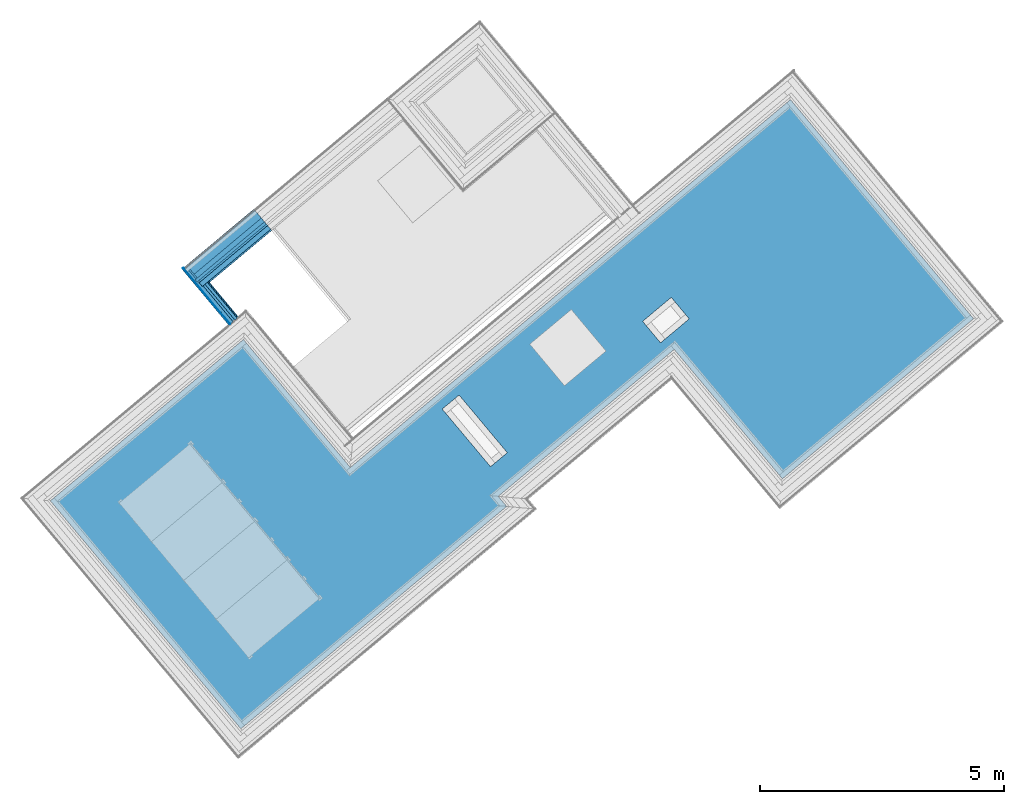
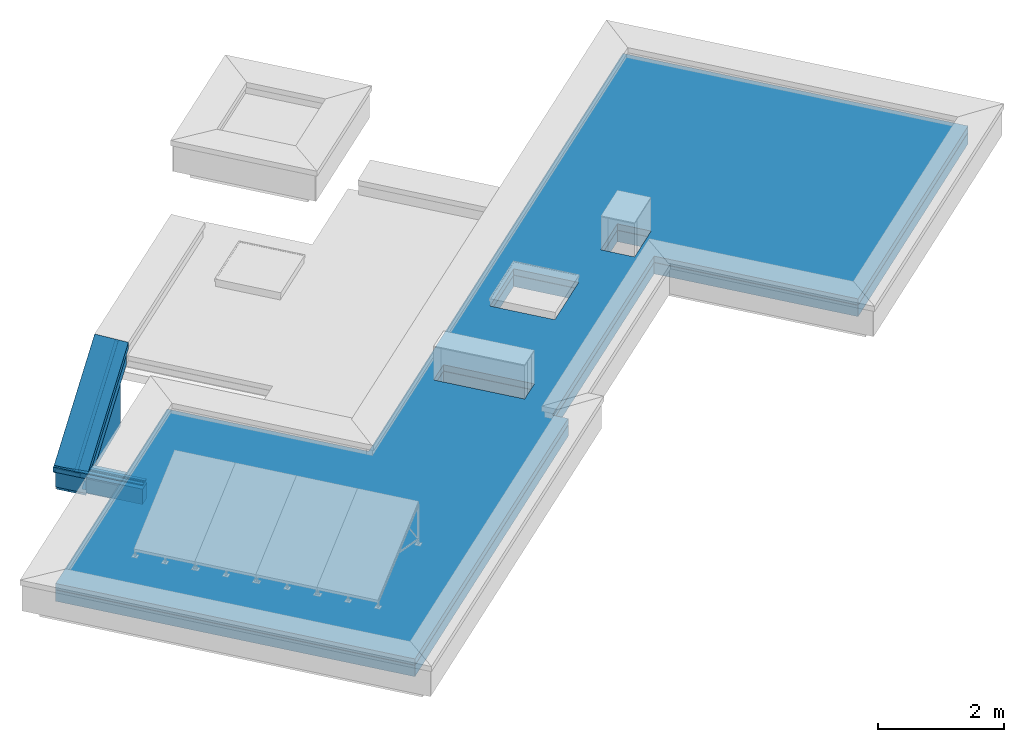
# One storey, part 5 of 15: 14 building element parts, 1 opening, 3 elements without a shape of their own.
"""IFC4 building model written with IfcOpenShell, lengths in metres."""

from ifc_helpers import new_model, entity, si_unit, converted_unit, derived_unit, direction, frame, origin_with_axes, place, context, subcontext, project, spatial, polygons, material, type_object, element, aggregate, save


model = new_model("IFC4")

# Units and contexts
model_context = context("Model", 3, precision=1e-05, world=origin_with_axes(), true_north=direction((0.0, 1.0)))
body_context = subcontext(model_context, "Body", "Model", "MODEL_VIEW")
ifc_project = project(units=[si_unit("LENGTHUNIT", "METRE"), si_unit("AREAUNIT", "SQUARE_METRE"), si_unit("VOLUMEUNIT", "CUBIC_METRE"), converted_unit("PLANEANGLEUNIT", "DEGREE", entity("IfcPlaneAngleMeasure", 0.0174532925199), si_unit("PLANEANGLEUNIT", "RADIAN"), dimensions=[0, 0, 0, 0, 0, 0, 0]), converted_unit("TIMEUNIT", "Year", entity("IfcTimeMeasure", 31556926.0), si_unit("TIMEUNIT", "SECOND"), dimensions=[0, 0, 1, 0, 0, 0, 0]), si_unit("MASSUNIT", "GRAM", prefix="KILO"), si_unit("THERMODYNAMICTEMPERATUREUNIT", "DEGREE_CELSIUS"), si_unit("LUMINOUSINTENSITYUNIT", "LUMEN"), si_unit("ENERGYUNIT", "JOULE", prefix="MEGA"), derived_unit("THERMALCONDUCTANCEUNIT", [(si_unit("POWERUNIT", "WATT"), 1), (si_unit("LENGTHUNIT", "METRE"), -1), (si_unit("THERMODYNAMICTEMPERATUREUNIT", "KELVIN"), -1)]), derived_unit("SPECIFICHEATCAPACITYUNIT", [(si_unit("ENERGYUNIT", "JOULE"), 1), (si_unit("MASSUNIT", "GRAM", prefix="KILO"), -1), (si_unit("THERMODYNAMICTEMPERATUREUNIT", "KELVIN"), -1)]), derived_unit("MASSDENSITYUNIT", [(si_unit("MASSUNIT", "GRAM", prefix="KILO"), 1), (si_unit("VOLUMEUNIT", "CUBIC_METRE"), -1)])], contexts=[model_context])

# Site, building, storey
site_placement = place(None, frame((-0.00153261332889, -0.00661245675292, 0.0), z_axis=(0.0, 0.0, 1.0), x_axis=(1.0, 0.0, 0.0)))
site = spatial("IfcSite", under=ifc_project, at=site_placement, Name="Site", CompositionType="ELEMENT")
building_placement = place(site_placement, origin_with_axes())
building = spatial("IfcBuilding", under=site, at=building_placement, Name="Building", CompositionType="ELEMENT")
storey_placement = place(building_placement, frame((0.0, 0.0, 11.84), z_axis=(0.0, 0.0, 1.0), x_axis=(1.0, 0.0, 0.0)))
storey = spatial("IfcBuildingStorey", under=building, at=storey_placement, Name="DA", CompositionType="ELEMENT", Elevation=11.84)

# Roof, opening, building element parts
roof_type = type_object("IfcRoofType", Name="Flachdach Kies Dachaufbau 360", PredefinedType="NOTDEFINED")
roof_placement = place(storey_placement, frame((-7.153028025, 17.8344643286, 0.0), z_axis=(0.0, 0.0, 1.0), x_axis=(0.76736582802, 0.641209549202, 0.0)))
roof = element("IfcRoof", 1, at=roof_placement, inside=storey, type_object=roof_type, Name="Dach-002", PredefinedType="NOTDEFINED")
opening_placement = place(roof_placement, frame((10.1581112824, -3.84416247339, 0.36), z_axis=(0.0, 0.0, 1.0), x_axis=(1.0, 0.0, 0.0)))
element("IfcOpeningElement", 2, at=opening_placement, cuts=roof, Name="DFenst-002", context=body_context, identifier="Reference", shape_type="Tessellation", body=[
    polygons([(-0.549139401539, -1.0998264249, 0.0), (0.549034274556, -1.09987890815, 0.0), (0.549034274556, -1.09987890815, 0.000999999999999), (-0.549139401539, -1.0998264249, 0.000999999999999), (-0.549139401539, -1.0998264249, -0.361), (0.549034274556, -1.09987890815, -0.361), (0.549086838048, -2.62416250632e-05, 0.0), (0.549086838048, -2.62416250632e-05, 0.000999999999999), (-0.549086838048, 2.62416250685e-05, 0.000999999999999), (-0.549086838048, 2.62416250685e-05, 0.0), (-0.549086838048, 2.62416250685e-05, -0.361), (0.549086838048, -2.62416250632e-05, -0.361)], [[[1, 2, 3, 4]], [[2, 1, 5, 6]], [[2, 7, 8, 3]], [[3, 8, 9, 4]], [[10, 1, 4, 9]], [[1, 10, 11, 5]], [[5, 11, 12, 6]], [[7, 2, 6, 12]], [[7, 10, 9, 8]], [[10, 7, 12, 11]]], closed=True),
])
ifc_material_1 = material(Name="Kies")
building_element_part_1_placement = place(roof_placement, origin_with_axes())
building_element_part_1 = element("IfcBuildingElementPart", 3, at=building_element_part_1_placement, material=ifc_material_1, Name="Kies", PredefinedType="NOTDEFINED", context=body_context, shape_type="Tessellation", body=[
    polygons([(7.1069283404, -5.81885664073, 0.24), (7.10697326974, -6.08743675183, 0.24), (-1.72136707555e-07, -6.09206489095, 0.24), (0.0, 0.0, 0.24), (5.16009951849, 0.0, 0.24), (5.16009951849, -3.41791933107, 0.24), (16.9223077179, -3.41791976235, 0.24), (16.9223296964, -9.27248425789, 0.24), (11.8084432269, -9.2788160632, 0.24), (11.8066322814, -5.82152738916, 0.24), (7.37613453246, -5.24986721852, 0.24), (7.8222728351, -5.24986723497, 0.24), (7.82227289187, -3.71028700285, 0.24), (7.37343532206, -3.70871416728, 0.24), (11.6804973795, -5.53633381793, 0.24), (12.4437771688, -5.5363338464, 0.24), (12.4449024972, -4.96363244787, 0.24), (11.6804974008, -4.96363241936, 0.24), (9.60902444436, -3.84413623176, 0.24), (9.60897188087, -4.94398889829, 0.24), (10.707145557, -4.94404138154, 0.24), (10.7071981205, -3.84418871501, 0.24), (7.1069283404, -5.81885664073, 0.36), (7.10697326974, -6.08743675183, 0.36), (-1.72136707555e-07, -6.09206489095, 0.36), (0.0, 0.0, 0.36), (5.16009951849, 0.0, 0.36), (5.16009951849, -3.41791933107, 0.36), (16.9223077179, -3.41791976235, 0.36), (16.9223296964, -9.27248425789, 0.36), (11.8084432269, -9.2788160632, 0.36), (11.8066322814, -5.82152738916, 0.36), (7.37613453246, -5.24986721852, 0.36), (7.8222728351, -5.24986723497, 0.36), (7.82227289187, -3.71028700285, 0.36), (7.37343532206, -3.70871416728, 0.36), (11.6804973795, -5.53633381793, 0.36), (12.4437771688, -5.5363338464, 0.36), (12.4449024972, -4.96363244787, 0.36), (11.6804974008, -4.96363241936, 0.36), (9.60902444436, -3.84413623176, 0.36), (9.60897188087, -4.94398889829, 0.36), (10.707145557, -4.94404138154, 0.36), (10.7071981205, -3.84418871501, 0.36)], [[[1, 2, 3, 4, 5, 6, 7, 8, 9, 10], [11, 12, 13, 14], [15, 16, 17, 18], [19, 20, 21, 22]], [[23, 24, 2, 1]], [[24, 25, 3, 2]], [[25, 26, 4, 3]], [[26, 27, 5, 4]], [[27, 28, 6, 5]], [[28, 29, 7, 6]], [[29, 30, 8, 7]], [[30, 31, 9, 8]], [[31, 32, 10, 9]], [[32, 23, 1, 10]], [[33, 34, 12, 11]], [[34, 35, 13, 12]], [[35, 36, 14, 13]], [[36, 33, 11, 14]], [[37, 38, 16, 15]], [[38, 39, 17, 16]], [[39, 40, 18, 17]], [[40, 37, 15, 18]], [[41, 42, 20, 19]], [[42, 43, 21, 20]], [[43, 44, 22, 21]], [[44, 41, 19, 22]], [[29, 28, 27, 26, 25, 24, 23, 32, 31, 30], [35, 34, 33, 36], [39, 38, 37, 40], [41, 44, 43, 42]]], closed=True),
])
ifc_material_2 = material(Name="XPS")
building_element_part_2_placement = place(roof_placement, origin_with_axes())
building_element_part_2 = element("IfcBuildingElementPart", 4, at=building_element_part_2_placement, material=ifc_material_2, Name="XPS", PredefinedType="NOTDEFINED", context=body_context, shape_type="Tessellation", body=[
    polygons([(7.1069283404, -5.81885664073, 0.015), (7.10697326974, -6.08743675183, 0.015), (-1.72136707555e-07, -6.09206489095, 0.015), (0.0, 0.0, 0.015), (5.16009951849, 0.0, 0.015), (5.16009951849, -3.41791933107, 0.015), (16.9223077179, -3.41791976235, 0.015), (16.9223296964, -9.27248425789, 0.015), (11.8084432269, -9.2788160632, 0.015), (11.8066322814, -5.82152738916, 0.015), (7.37613453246, -5.24986721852, 0.015), (7.8222728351, -5.24986723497, 0.015), (7.82227289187, -3.71028700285, 0.015), (7.37343532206, -3.70871416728, 0.015), (11.6804973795, -5.53633381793, 0.015), (12.4437771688, -5.5363338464, 0.015), (12.4449024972, -4.96363244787, 0.015), (11.6804974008, -4.96363241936, 0.015), (9.60902444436, -3.84413623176, 0.015), (9.60897188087, -4.94398889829, 0.015), (10.707145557, -4.94404138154, 0.015), (10.7071981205, -3.84418871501, 0.015), (7.1069283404, -5.81885664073, 0.235), (7.10697326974, -6.08743675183, 0.235), (-1.72136707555e-07, -6.09206489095, 0.235), (0.0, 0.0, 0.235), (5.16009951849, 0.0, 0.235), (5.16009951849, -3.41791933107, 0.235), (16.9223077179, -3.41791976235, 0.235), (16.9223296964, -9.27248425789, 0.235), (11.8084432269, -9.2788160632, 0.235), (11.8066322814, -5.82152738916, 0.235), (7.37613453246, -5.24986721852, 0.235), (7.8222728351, -5.24986723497, 0.235), (7.82227289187, -3.71028700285, 0.235), (7.37343532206, -3.70871416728, 0.235), (11.6804973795, -5.53633381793, 0.235), (12.4437771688, -5.5363338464, 0.235), (12.4449024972, -4.96363244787, 0.235), (11.6804974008, -4.96363241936, 0.235), (9.60902444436, -3.84413623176, 0.235), (9.60897188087, -4.94398889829, 0.235), (10.707145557, -4.94404138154, 0.235), (10.7071981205, -3.84418871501, 0.235)], [[[1, 2, 3, 4, 5, 6, 7, 8, 9, 10], [11, 12, 13, 14], [15, 16, 17, 18], [19, 20, 21, 22]], [[23, 24, 2, 1]], [[24, 25, 3, 2]], [[25, 26, 4, 3]], [[26, 27, 5, 4]], [[27, 28, 6, 5]], [[28, 29, 7, 6]], [[29, 30, 8, 7]], [[30, 31, 9, 8]], [[31, 32, 10, 9]], [[32, 23, 1, 10]], [[33, 34, 12, 11]], [[34, 35, 13, 12]], [[35, 36, 14, 13]], [[36, 33, 11, 14]], [[37, 38, 16, 15]], [[38, 39, 17, 16]], [[39, 40, 18, 17]], [[40, 37, 15, 18]], [[41, 42, 20, 19]], [[42, 43, 21, 20]], [[43, 44, 22, 21]], [[44, 41, 19, 22]], [[29, 28, 27, 26, 25, 24, 23, 32, 31, 30], [35, 34, 33, 36], [39, 38, 37, 40], [41, 44, 43, 42]]], closed=True),
])
aggregate(roof, [building_element_part_1, building_element_part_2])

# Wall, building element parts
wall_type_1 = type_object("IfcWallType", Name="Bauteil - Attika 574 x 1710", PredefinedType="NOTDEFINED")
wall_1_placement = place(storey_placement, frame((-4.26699184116, 22.4282204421, -1.93990603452), z_axis=(0.0, 0.0, 1.0), x_axis=(0.641209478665, -0.76736588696, 0.0)))
wall_1 = element("IfcWall", 5, at=wall_1_placement, inside=storey, type_object=wall_type_1, Name="Träger-001", PredefinedType="NOTDEFINED")
ifc_material_3 = material(Name="Stahlbeton Wand Garage")
building_element_part_3_placement = place(wall_1_placement, origin_with_axes())
building_element_part_3 = element("IfcBuildingElementPart", 6, at=building_element_part_3_placement, material=ifc_material_3, Name="Stahlbeton Wand Garage", PredefinedType="NOTDEFINED", context=body_context, shape_type="Tessellation", body=[
    polygons([(0.0, 0.0, 0.610387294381), (0.2, 0.0, 0.610387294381), (0.2, 1.87834618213, 1.92561945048), (0.0, 1.87834618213, 1.92561945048), (0.2, 0.0, 0.288294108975), (0.0, 0.0, 0.288294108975), (0.2, 1.87834618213, 0.382515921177), (0.0, 1.87834618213, 0.382515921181)], [[[1, 2, 3, 4]], [[5, 2, 1, 6]], [[2, 5, 7, 3]], [[4, 3, 7, 8]], [[6, 1, 4, 8]], [[5, 6, 8, 7]]], closed=True),
])
ifc_material_4 = material(Name="EPS 1")
building_element_part_4_placement = place(wall_1_placement, origin_with_axes())
building_element_part_4 = element("IfcBuildingElementPart", 7, at=building_element_part_4_placement, material=ifc_material_4, Name="EPS 1", PredefinedType="NOTDEFINED", context=body_context, shape_type="Tessellation", body=[
    polygons([(-0.19999996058, 1.87834618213, 1.9256194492), (-0.19999996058, 1.87834618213, 0.382515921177), (-0.19999996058, 0.0, 0.288294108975), (-0.19999996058, 0.0, 0.610387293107), (-2.39911202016e-10, 1.87834618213, 1.9256194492), (-2.39911202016e-10, 1.87834618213, 0.382515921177), (-2.39911202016e-10, 0.0, 0.288294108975), (-2.39911202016e-10, 0.0, 0.610387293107)], [[[1, 2, 3, 4]], [[5, 6, 2, 1]], [[2, 6, 7, 3]], [[3, 7, 8, 4]], [[5, 1, 4, 8]], [[6, 5, 8, 7]]], closed=True),
])
building_element_part_5_placement = place(wall_1_placement, origin_with_axes())
building_element_part_5 = element("IfcBuildingElementPart", 8, at=building_element_part_5_placement, material=ifc_material_4, Name="EPS 1", PredefinedType="NOTDEFINED", context=body_context, shape_type="Tessellation", body=[
    polygons([(0.2, 1.87834618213, 1.99886592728), (0.2, 1.87834618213, 1.60211418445), (0.2, 0.0, 0.286882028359), (0.2, 0.0, 0.683633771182), (0.3, 1.87834618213, 1.99886592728), (0.3, 1.87834618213, 1.60211418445), (0.3, 0.0, 0.286882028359), (0.3, 0.0, 0.683633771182)], [[[1, 2, 3, 4]], [[5, 6, 2, 1]], [[2, 6, 7, 3]], [[3, 7, 8, 4]], [[5, 1, 4, 8]], [[6, 5, 8, 7]]], closed=True),
])
ifc_material_5 = material(Name="Vollholz")
building_element_part_6_placement = place(wall_1_placement, origin_with_axes())
building_element_part_6 = element("IfcBuildingElementPart", 9, at=building_element_part_6_placement, material=ifc_material_5, Name="Vollholz", PredefinedType="NOTDEFINED", context=body_context, shape_type="Tessellation", body=[
    polygons([(0.1, 1.87834618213, 1.99886592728), (0.16, 1.87834618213, 1.99886592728), (0.16, 0.0, 0.683633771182), (0.1, 0.0, 0.683633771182), (0.1, 1.87834618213, 2.01837359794), (0.160110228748, 1.87834618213, 2.01581107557), (0.160110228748, 0.0, 0.700578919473), (0.1, 0.0, 0.703141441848)], [[[1, 2, 3, 4]], [[5, 6, 2, 1]], [[2, 6, 7, 3]], [[3, 7, 8, 4]], [[5, 1, 4, 8]], [[6, 5, 8, 7]]], closed=True),
])
ifc_material_6 = material(Name="Stahl")
building_element_part_7_placement = place(wall_1_placement, origin_with_axes())
building_element_part_7 = element("IfcBuildingElementPart", 10, at=building_element_part_7_placement, material=ifc_material_6, Name="Stahl", PredefinedType="NOTDEFINED", context=body_context, shape_type="Tessellation", body=[
    polygons([(0.330698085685, 0.00989990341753, 0.702991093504), (0.330698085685, 0.00987504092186, 0.698357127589), (0.330698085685, 0.0698750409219, 0.698357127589), (0.330698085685, 0.0698750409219, 0.719423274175), (0.330698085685, 0.0316718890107, 0.718236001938), (0.330698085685, 1.87834618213, 2.0112912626), (0.330698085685, 1.87834618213, 1.91464039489), (0.330698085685, 0.176114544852, 0.722724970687), (0.330698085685, 0.121073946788, 0.721014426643), (0.330698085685, 0.120851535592, 0.698357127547), (0.330698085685, 0.141313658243, 0.698357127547), (0.330698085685, 0.0556247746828, 0.638357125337), (0.330698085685, 3.46206086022e-09, 0.638357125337), (0.330698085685, 0.0, 0.696059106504), (0.330698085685, 0.00997807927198, 0.71756180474), (0.332051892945, 0.00997807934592, 0.71756180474), (0.332051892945, 0.00990170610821, 0.703327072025), (0.332051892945, 0.00987504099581, 0.698357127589), (0.332051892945, 0.0698750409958, 0.698357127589), (0.332051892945, 0.0698750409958, 0.719423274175), (0.332051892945, 0.0311716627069, 0.718220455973), (0.330698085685, 0.0, 0.717739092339), (0.330698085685, 1.87834618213, 2.03297124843), (-0.231373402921, 1.87834618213, 1.94786172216), (-0.240542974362, 1.87834618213, 1.93666775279), (-0.241500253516, 1.87834618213, 1.93783638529), (-0.241500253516, 1.87834618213, 2.05825851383), (-0.241500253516, 1.87834618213, 2.05991228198), (0.332051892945, 1.87834618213, 2.03456517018), (0.332051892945, 1.87834618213, 2.01162597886), (0.332051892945, 1.87834618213, 1.91298770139), (0.331094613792, 1.87834618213, 1.91181907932), (0.321878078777, 1.87834618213, 1.92307039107), (0.32288233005, 1.87834618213, 1.92418168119), (-0.102258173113, 1.87834618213, 2.0521124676), (-0.240152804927, 1.87834618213, 2.05819892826), (-0.240146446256, 1.87834618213, 1.93948906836), (-0.232283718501, 1.87834618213, 1.9490876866), (0.32288233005, 0.161855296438, 0.722281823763), (0.321878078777, 0.163516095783, 0.722333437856), (0.331094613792, 0.180330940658, 0.722856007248), (0.332051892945, 0.178584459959, 0.722801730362), (0.332051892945, 0.121073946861, 0.721014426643), (0.332051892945, 0.120851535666, 0.698357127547), (0.332051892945, 0.143673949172, 0.698357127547), (0.331094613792, 0.145342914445, 0.698357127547), (0.321878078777, 0.129274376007, 0.698357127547), (0.32288233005, 0.127687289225, 0.698357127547), (0.32288233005, 0.041998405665, 0.638357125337), (0.321878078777, 0.0435854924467, 0.638357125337), (0.331094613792, 0.0596540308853, 0.638357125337), (0.332051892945, 0.0579850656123, 0.638357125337), (0.332051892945, 3.61473873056e-09, 0.638357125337), (0.332051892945, 0.0, 0.696393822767), (0.332051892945, 0.0, 0.719333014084), (-0.241500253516, 0.0, 0.74468012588), (-0.241500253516, 0.0, 0.743026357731), (-0.241500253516, 0.0, 0.622604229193), (-0.240542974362, 0.0, 0.621435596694), (-0.231373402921, 0.0, 0.632629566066), (-0.232283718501, 0.0, 0.633855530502), (-0.240146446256, 0.0, 0.62425691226), (-0.240152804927, 0.0, 0.742966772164), (-0.102258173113, 0.0, 0.736880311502)], [[[1, 2, 3, 4, 5, 6, 7, 8, 9, 10, 11, 12, 13, 14]], [[15, 16, 17, 18, 2, 1]], [[2, 18, 19, 3]], [[3, 19, 20, 4]], [[4, 20, 21, 16, 15, 5]], [[5, 15, 1, 14, 22, 23, 6]], [[24, 25, 26, 27, 28, 29, 30, 31, 32, 33, 34, 7, 6, 23, 35, 36, 37, 38]], [[34, 39, 8, 7]], [[39, 40, 41, 42, 43, 9, 8]], [[9, 43, 44, 10]], [[44, 45, 46, 47, 48, 11, 10]], [[12, 11, 48, 49]], [[49, 50, 51, 52, 53, 13, 12]], [[14, 13, 53, 54, 55, 56, 57, 58, 59, 60, 61, 62, 63, 64, 22]], [[17, 16, 21, 30, 29, 55, 54]], [[19, 18, 17, 54, 53, 52, 45, 44, 43, 42, 31, 30, 21, 20]], [[64, 35, 23, 22]], [[59, 25, 24, 60]], [[58, 26, 25, 59]], [[57, 27, 26, 58]], [[56, 28, 27, 57]], [[55, 29, 28, 56]], [[31, 42, 41, 32]], [[32, 41, 40, 33]], [[33, 40, 39, 34]], [[63, 36, 35, 64]], [[62, 37, 36, 63]], [[61, 38, 37, 62]], [[60, 24, 38, 61]], [[51, 46, 45, 52]], [[50, 47, 46, 51]], [[49, 48, 47, 50]]], closed=True),
])
ifc_material_7 = material(Name="Brettschichtholz")
building_element_part_8_placement = place(wall_1_placement, origin_with_axes())
building_element_part_8 = element("IfcBuildingElementPart", 11, at=building_element_part_8_placement, material=ifc_material_7, Name="Brettschichtholz", PredefinedType="NOTDEFINED", context=body_context, shape_type="Tessellation", body=[
    polygons([(-0.214999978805, 0.0, 0.683633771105), (-0.214999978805, 1.87834618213, 1.9988659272), (-0.214999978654, 1.87834618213, 1.9256194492), (-0.214999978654, 0.0, 0.610387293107), (0.2, 0.0, 0.683633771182), (0.2, 1.87834618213, 1.99886592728), (0.2, 1.87834618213, 1.92561945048), (0.2, 0.0, 0.610387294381)], [[[1, 2, 3, 4]], [[5, 6, 2, 1]], [[2, 6, 7, 3]], [[4, 3, 7, 8]], [[1, 4, 8, 5]], [[8, 7, 6, 5]]], closed=True),
])
ifc_material_8 = material(Name="Holzwerkstoff")
building_element_part_9_placement = place(wall_1_placement, origin_with_axes())
building_element_part_9 = element("IfcBuildingElementPart", 12, at=building_element_part_9_placement, material=ifc_material_8, Name="Holzwerkstoff", PredefinedType="NOTDEFINED", context=body_context, shape_type="Tessellation", body=[
    polygons([(0.33, 0.0, 0.693336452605), (0.33, 0.00988524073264, 0.700258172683), (0.330493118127, 0.00997807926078, 0.71756180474), (0.33, 0.0357408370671, 0.718362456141), (0.33, 1.87834618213, 2.0085686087), (0.330698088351, 1.87834618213, 2.03297266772), (0.330698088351, 0.0, 0.717740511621), (-0.0743744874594, 0.00997805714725, 0.71756180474), (-0.239999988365, 0.0, 0.717635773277), (-0.239999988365, 1.87834618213, 2.03286792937), (-0.239276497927, 1.87834618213, 2.05816000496), (-0.239276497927, 0.0, 0.74292784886)], [[[1, 2, 3, 4, 5, 6, 7]], [[8, 2, 1, 9, 10, 5, 4]], [[8, 3, 2]], [[4, 3, 8]], [[5, 10, 11, 6]], [[12, 7, 6, 11]], [[12, 9, 1, 7]], [[9, 12, 11, 10]]], closed=True),
])
aggregate(wall_1, [building_element_part_3, building_element_part_4, building_element_part_5, building_element_part_6, building_element_part_7, building_element_part_8, building_element_part_9])

wall_type_2 = type_object("IfcWallType", Name="Bauteil - Attika Abschluss wand 264 x 407", PredefinedType="NOTDEFINED")
wall_2_placement = place(storey_placement, frame((-3.30589112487, 21.5899361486, -1.80154890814), z_axis=(0.0, 0.0, 1.0), x_axis=(0.767365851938, 0.641209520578, 0.0)))
wall_2 = element("IfcWall", 13, at=wall_2_placement, inside=storey, type_object=wall_type_2, Name="Träger-001", PredefinedType="NOTDEFINED")
ifc_material_9 = material(Name="Zementputz")
building_element_part_10_placement = place(wall_2_placement, origin_with_axes())
building_element_part_10 = element("IfcBuildingElementPart", 14, at=building_element_part_10_placement, material=ifc_material_9, Name="Zementputz", PredefinedType="NOTDEFINED", context=body_context, shape_type="Tessellation", body=[
    polygons([(-0.199999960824, 0.0, 0.499999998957), (-0.199999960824, 0.0, 0.2), (-0.199999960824, 1.47453764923, 0.2), (-0.199999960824, 1.47453764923, 0.472030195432), (-0.199999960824, 1.47453764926, 0.483078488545), (-0.199999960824, 1.50008064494, 0.483078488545), (-0.199999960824, 1.5010379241, 0.484247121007), (-0.199999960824, 1.5010379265, 0.499999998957), (-0.214999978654, 0.0, 0.499999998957), (-0.214999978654, 0.0, 0.2), (-0.214999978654, 1.47453765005, 0.2), (-0.214999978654, 1.47453765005, 0.461527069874), (-0.214999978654, 1.47453765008, 0.472575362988), (-0.214999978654, 1.50008064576, 0.472575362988), (-0.214999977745, 1.50103792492, 0.473743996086), (-0.214999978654, 1.5010379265, 0.499999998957)], [[[1, 2, 3, 4, 5, 6, 7, 8]], [[9, 10, 2, 1]], [[2, 10, 11, 3]], [[11, 12, 4, 3]], [[12, 13, 5, 4]], [[13, 14, 6, 5]], [[14, 15, 7, 6]], [[16, 8, 7, 15]], [[16, 9, 1, 8]], [[14, 13, 12, 11, 10, 9, 16, 15]]], closed=True),
])
building_element_part_11_placement = place(wall_2_placement, origin_with_axes())
building_element_part_11 = element("IfcBuildingElementPart", 15, at=building_element_part_11_placement, material=ifc_material_6, Name="Stahl", PredefinedType="NOTDEFINED", context=body_context, shape_type="Tessellation", body=[
    polygons([(-0.0241998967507, 1.50008063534, 0.606175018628), (-0.0241998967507, 1.47453763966, 0.606175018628), (-0.0262211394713, 1.47453763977, 0.604759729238), (-0.0262211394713, 1.50008063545, 0.604759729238), (0.00865664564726, 0.928839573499, 0.60715408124), (-0.0055753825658, 0.936655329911, 0.606729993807), (-0.00391775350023, 0.937659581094, 0.606779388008), (0.0128649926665, 0.928443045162, 0.607279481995), (0.0111218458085, 0.927485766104, 0.607227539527), (-0.136009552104, 0.92748577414, 0.602843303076), (-0.170226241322, 0.927485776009, 0.60182371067), (-0.199999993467, 1.37915291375, 0.600936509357), (-0.199999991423, 1.41657407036, 0.600936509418), (-0.199999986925, 1.49891812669, 0.600936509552), (-0.167694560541, 1.49953765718, 0.601899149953), (-0.164514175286, 1.44952257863, 0.601993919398), (-0.116976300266, 1.44966264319, 0.603410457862), (-0.11697629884, 1.47453764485, 0.603410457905), (-0.0408971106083, 1.49091106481, 0.60567747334), (-0.0427257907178, 1.49182138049, 0.605622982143), (-0.0284082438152, 1.49968410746, 0.606049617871), (-0.199999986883, 1.49969027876, 0.600936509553), (-0.199999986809, 1.5010379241, 0.600936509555), (-0.244007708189, 1.5010379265, 0.59962516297), (-0.244007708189, 0.0, 0.59962516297), (0.0197167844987, 0.0, 0.607483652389), (0.0197167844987, 0.95953765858, 0.607483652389), (0.0128649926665, 0.959537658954, 0.607279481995), (-0.116976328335, 0.959537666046, 0.603410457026), (-0.11697632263, 1.05953766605, 0.603410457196), (-0.116976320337, 1.09953766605, 0.603410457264), (-0.142252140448, 1.09942743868, 0.60265728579), (-0.131449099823, 0.929537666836, 0.6029791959), (-0.167850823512, 0.928839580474, 0.601894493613), (-0.135510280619, 0.928839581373, 0.602858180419), (-0.118997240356, 1.47453764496, 0.601995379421), (-0.118997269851, 0.959537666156, 0.601995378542), (0.0108436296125, 0.959537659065, 0.605864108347), (0.0197570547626, 0.959537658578, 0.606129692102), (0.0197570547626, 0.0, 0.606129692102), (-0.241694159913, 0.0, 0.598339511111), (-0.241694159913, 1.5010379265, 0.598339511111), (-0.199999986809, 1.5010379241, 0.599581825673), (-0.199999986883, 1.49969020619, 0.599581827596), (-0.0304294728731, 1.49968410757, 0.604634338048), (-0.044746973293, 1.4918213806, 0.604207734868), (-0.0429182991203, 1.49091106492, 0.604262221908), (-0.118997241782, 1.4496626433, 0.601995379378), (-0.166534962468, 1.44952257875, 0.60057894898), (-0.169715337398, 1.49953765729, 0.600484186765), (-0.199999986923, 1.49895687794, 0.599581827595), (-0.199999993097, 1.38591841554, 0.599581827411), (-0.199999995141, 1.34849929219, 0.59958182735), (-0.172247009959, 0.927485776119, 0.600408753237), (-0.138030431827, 0.92748577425, 0.60142826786), (0.00910048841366, 0.927485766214, 0.605812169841), (0.0108436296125, 0.928443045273, 0.605864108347), (-0.00593906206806, 0.937659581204, 0.605364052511), (-0.00759668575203, 0.936655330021, 0.605314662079), (0.00663529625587, 0.928839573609, 0.605738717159), (-0.137531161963, 0.928839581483, 0.601443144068), (-0.169871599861, 0.928839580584, 0.60047953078), (-0.133469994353, 0.929537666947, 0.601564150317), (-0.144272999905, 1.09942743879, 0.601242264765), (-0.118997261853, 1.09953766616, 0.60199537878), (-0.118997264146, 1.05953766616, 0.601995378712), (-0.242570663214, 1.5010379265, 0.598313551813), (-0.236153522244, 1.5010379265, 0.501284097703), (-0.228826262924, 1.5010379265, 0.509648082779), (-0.22785172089, 1.5010379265, 0.508706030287), (-0.236396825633, 1.5010379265, 0.498951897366), (-0.237415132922, 1.5010379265, 0.499843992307), (-0.237415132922, 0.0, 0.499843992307), (-0.236396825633, 0.0, 0.498951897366), (-0.22785172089, 0.0, 0.508706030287), (-0.228826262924, 0.0, 0.509648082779), (-0.236153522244, 0.0, 0.501284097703), (-0.242570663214, 0.0, 0.598313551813)], [[[1, 2, 3, 4]], [[5, 6, 7, 8, 9, 10, 11, 12, 13, 14, 15, 16, 17, 18, 2, 1, 19, 20, 21, 22, 23, 24, 25, 26, 27, 28, 29, 30, 31, 32, 33, 34, 35]], [[36, 3, 2, 18]], [[37, 38, 39, 40, 41, 42, 43, 44, 45, 46, 47, 4, 3, 36, 48, 49, 50, 51, 52, 53, 54, 55, 56, 57, 58, 59, 60, 61, 62, 63, 64, 65, 66]], [[47, 19, 1, 4]], [[59, 6, 5, 60]], [[58, 7, 6, 59]], [[57, 8, 7, 58]], [[56, 9, 8, 57]], [[55, 10, 9, 56]], [[54, 11, 10, 55]], [[53, 12, 11, 54]], [[12, 53, 52, 13]], [[13, 52, 51, 14]], [[50, 15, 14, 51]], [[49, 16, 15, 50]], [[48, 17, 16, 49]], [[36, 18, 17, 48]], [[46, 20, 19, 47]], [[45, 21, 20, 46]], [[44, 22, 21, 45]], [[43, 23, 22, 44]], [[24, 23, 43, 42, 67, 68, 69, 70, 71, 72]], [[72, 73, 25, 24]], [[40, 26, 25, 73, 74, 75, 76, 77, 78, 41]], [[40, 39, 27, 26]], [[28, 27, 39, 38]], [[37, 29, 28, 38]], [[66, 30, 29, 37]], [[65, 31, 30, 66]], [[64, 32, 31, 65]], [[63, 33, 32, 64]], [[62, 34, 33, 63]], [[61, 35, 34, 62]], [[60, 5, 35, 61]], [[42, 41, 78, 67]], [[67, 78, 77, 68]], [[68, 77, 76, 69]], [[69, 76, 75, 70]], [[70, 75, 74, 71]], [[71, 74, 73, 72]]], closed=True),
    polygons([(-0.148095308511, 1.15953766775, 0.601128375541), (-0.162728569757, 1.38966264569, 0.600692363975), (-0.118997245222, 1.3896626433, 0.601995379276), (-0.118997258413, 1.15953766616, 0.601995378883), (-0.146074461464, 1.15953766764, 0.602543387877), (-0.160707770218, 1.38966264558, 0.602107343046), (-0.116976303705, 1.38966264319, 0.60341045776), (-0.116976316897, 1.15953766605, 0.603410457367)], [[[1, 2, 3, 4]], [[1, 5, 6, 2]], [[2, 6, 7, 3]], [[3, 7, 8, 4]], [[4, 8, 5, 1]], [[7, 6, 5, 8]]], closed=True),
])
building_element_part_12_placement = place(wall_2_placement, origin_with_axes())
building_element_part_12 = element("IfcBuildingElementPart", 16, at=building_element_part_12_placement, material=ifc_material_5, Name="Vollholz", PredefinedType="NOTDEFINED", context=body_context, shape_type="Tessellation", body=[
    polygons([(-0.149758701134, 1.44966264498, 0.580455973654), (-0.149758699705, 1.47453764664, 0.580455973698), (-0.130124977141, 1.47453764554, 0.581066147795), (-0.130124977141, 1.49968658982, 0.581066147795), (-0.19002193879, 1.49968873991, 0.57920467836), (-0.19002193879, 1.44954424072, 0.57920467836), (-0.178972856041, 1.47453764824, 0.560000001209), (-0.178972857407, 1.44966264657, 0.560000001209), (-0.130124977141, 1.4745376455, 0.560000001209), (-0.130124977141, 1.49968546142, 0.560000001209), (-0.190124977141, 1.49968771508, 0.560000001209), (-0.190124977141, 1.44962832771, 0.560000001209)], [[[1, 2, 3, 4, 5, 6]], [[7, 2, 1, 8]], [[7, 9, 3, 2]], [[4, 3, 9, 10]], [[11, 5, 4, 10]], [[11, 12, 6, 5]], [[8, 1, 6, 12]], [[7, 8, 12, 11, 10, 9]]], closed=True),
    polygons([(-0.130124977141, 0.0, 0.560000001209), (-0.130124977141, 0.959537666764, 0.560000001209), (-0.130124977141, 0.959537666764, 0.581066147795), (-0.130124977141, 0.0, 0.581066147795), (-0.178972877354, 1.09953766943, 0.560000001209), (-0.178972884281, 0.959537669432, 0.560000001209), (-0.190124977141, 0.0, 0.560000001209), (-0.190124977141, 1.09948687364, 0.560000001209), (-0.149758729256, 0.959537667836, 0.58045597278), (-0.149758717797, 1.15953766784, 0.580455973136), (-0.14975870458, 1.38966264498, 0.580455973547), (-0.19002193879, 1.38966264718, 0.57920467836), (-0.19002193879, 0.0, 0.57920467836), (-0.14975872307, 1.09953766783, 0.580455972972), (-0.175082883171, 1.09942744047, 0.57966895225), (-0.17891251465, 1.15953766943, 0.579549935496), (-0.190061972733, 1.15953767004, 0.5717430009), (-0.1900757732, 1.09942744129, 0.569170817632), (-0.190124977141, 1.38966264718, 0.560000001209), (-0.190124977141, 1.15953767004, 0.560000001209), (-0.1789728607, 1.38966264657, 0.560000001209), (-0.17897287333, 1.15953766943, 0.560000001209)], [[[1, 2, 3, 4]], [[5, 6, 2, 1, 7, 8]], [[6, 9, 3, 2]], [[10, 11, 12, 13, 4, 3, 9, 14, 15, 16]], [[1, 4, 13, 7]], [[5, 14, 9, 6]], [[17, 18, 8, 7, 13, 12, 19, 20]], [[18, 15, 14, 5, 8]], [[21, 11, 10, 22]], [[19, 12, 11, 21]], [[17, 16, 15, 18]], [[22, 10, 16, 17, 20]], [[21, 22, 20, 19]]], closed=True),
])
building_element_part_13_placement = place(wall_2_placement, origin_with_axes())
building_element_part_13 = element("IfcBuildingElementPart", 17, at=building_element_part_13_placement, material=ifc_material_5, Name="Vollholz", PredefinedType="NOTDEFINED", context=body_context, shape_type="Tessellation", body=[
    polygons([(-0.0789260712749, 1.49968475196, 0.582657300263), (-0.0789260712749, 1.47453764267, 0.582657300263), (-0.0568048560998, 1.47453764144, 0.583344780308), (-0.0568048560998, 1.50008063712, 0.583344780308), (-0.0735340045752, 1.49091106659, 0.582824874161), (-0.0753661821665, 1.49182138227, 0.582767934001), (-0.0610212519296, 1.49968410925, 0.583213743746), (-0.0790723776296, 1.50008063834, 0.567752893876), (-0.0790723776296, 1.47453764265, 0.567752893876), (-0.0790444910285, 1.49968411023, 0.570593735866), (-0.0789496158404, 1.49182138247, 0.58025878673), (-0.0789617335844, 1.49091106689, 0.579024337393)], [[[1, 2, 3, 4, 5, 6, 7]], [[8, 9, 2, 1, 10, 11, 12]], [[2, 9, 3]], [[4, 3, 9, 8]], [[12, 5, 4, 8]], [[11, 6, 5, 12]], [[10, 7, 6, 11]], [[10, 1, 7]]], closed=True),
    polygons([(-0.07914848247, 0.0, 0.560000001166), (-0.07914848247, 0.95953766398, 0.560000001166), (-0.01914848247, 0.959537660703, 0.560000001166), (-0.01914848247, 0.0, 0.560000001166), (-0.0789260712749, 0.0, 0.582657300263), (-0.0789260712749, 0.959537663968, 0.582657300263), (-0.019237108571, 0.959537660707, 0.584512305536), (-0.019237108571, 0.0, 0.584512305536)], [[[1, 2, 3, 4]], [[5, 6, 2, 1]], [[6, 7, 3, 2]], [[4, 3, 7, 8]], [[4, 8, 5, 1]], [[8, 7, 6, 5]]], closed=True),
])
building_element_part_14_placement = place(wall_2_placement, origin_with_axes())
building_element_part_14 = element("IfcBuildingElementPart", 18, at=building_element_part_14_placement, material=ifc_material_4, Name="EPS 1", PredefinedType="NOTDEFINED", context=body_context, shape_type="Tessellation", body=[
    polygons([(-2.39911202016e-10, 1.05953765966, 0.2), (-2.39911202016e-10, 1.05953765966, 0.288566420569), (-2.39909425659e-10, 0.959537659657, 0.288566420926), (-2.39911202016e-10, 0.959537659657, 0.499999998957), (-2.39911202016e-10, 0.0, 0.499999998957), (-2.39911202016e-10, 0.0, 0.2), (-0.126485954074, 1.05953766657, 0.2), (-0.12648595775, 0.959537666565, 0.2), (-0.200000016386, 0.959537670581, 0.2), (-0.200000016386, 0.959537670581, 0.499999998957), (-0.19999996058, 0.0, 0.499999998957), (-0.19999996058, 0.0, 0.2)], [[[1, 2, 3, 4, 5, 6]], [[7, 2, 1]], [[8, 3, 2, 7]], [[9, 10, 4, 3, 8]], [[5, 4, 10, 11]], [[12, 6, 5, 11]], [[8, 7, 1, 6, 12, 9]], [[11, 10, 9, 12]]], closed=True),
    polygons([(-0.199999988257, 1.47453764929, 0.499999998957), (-0.175833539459, 1.47453764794, 0.499999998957), (-0.175833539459, 1.50008064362, 0.499999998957), (-0.191820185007, 1.49091107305, 0.499999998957), (-0.193571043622, 1.49182138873, 0.499999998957), (-0.179862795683, 1.49968411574, 0.499999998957), (-0.199999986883, 1.49968487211, 0.499999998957), (-0.199999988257, 1.47453764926, 0.483078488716), (-0.199999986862, 1.50008064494, 0.483078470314), (-0.199999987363, 1.4909110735, 0.494272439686), (-0.199999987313, 1.49182138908, 0.495498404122), (-0.199999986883, 1.49968411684, 0.48589978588)], [[[1, 2, 3, 4, 5, 6, 7]], [[8, 2, 1]], [[2, 8, 9, 3]], [[4, 3, 9, 10]], [[5, 4, 10, 11]], [[6, 5, 11, 12]], [[7, 6, 12]], [[8, 1, 7, 12, 11, 10, 9]]], closed=True),
])
aggregate(wall_2, [building_element_part_10, building_element_part_11, building_element_part_12, building_element_part_13, building_element_part_14])

save(model, "model.ifc")
